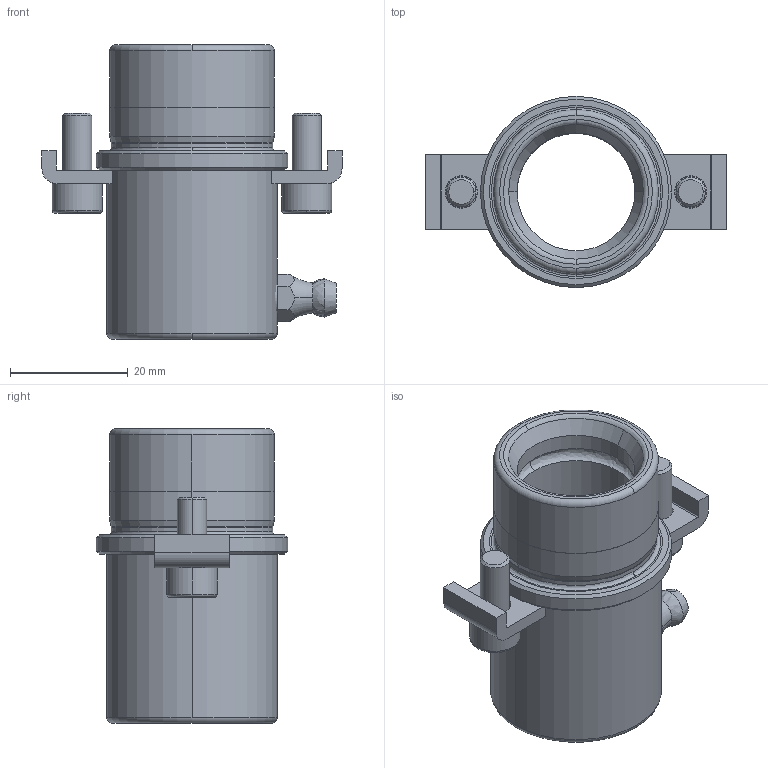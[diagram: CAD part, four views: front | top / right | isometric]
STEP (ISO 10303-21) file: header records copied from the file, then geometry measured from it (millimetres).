
FILE_DESCRIPTION((''),'2;1');
FILE_NAME('B10_020_032.stp','2008-11-04T11:46:05',(''),(''),'Mechanical Desktop 2009','Mechanical Desktop 2009',', , ');
FILE_SCHEMA(('CONFIG_CONTROL_DESIGN'));
Length unit declared in the file: millimetre
Products named in the file (2): Product; blmdl1
Assembly tree (1 placements, depth 2):
  Product
    blmdl1
Bounding box: 51 x 32.5 x 50 mm (x, y, z)
Volume: 18439.7 mm3; surface area: 10792.6 mm2
Topology: 6 solids, 6 shells, 130 faces, 329 edges, 216 vertices
Faces by surface type: plane 48, cylinder 38, cone 18, torus 14, bspline 12
Entity records: 4936 total; most frequent: CARTESIAN_POINT 1616, DIRECTION 721, ORIENTED_EDGE 650, EDGE_CURVE 325, AXIS2_PLACEMENT_3D 293, VERTEX_POINT 214, CIRCLE 173, EDGE_LOOP 145
